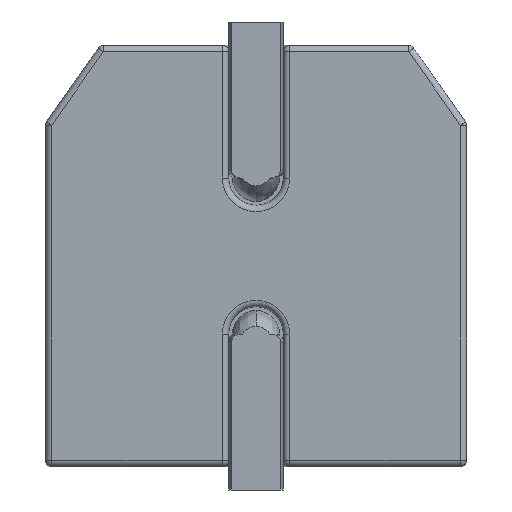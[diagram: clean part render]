
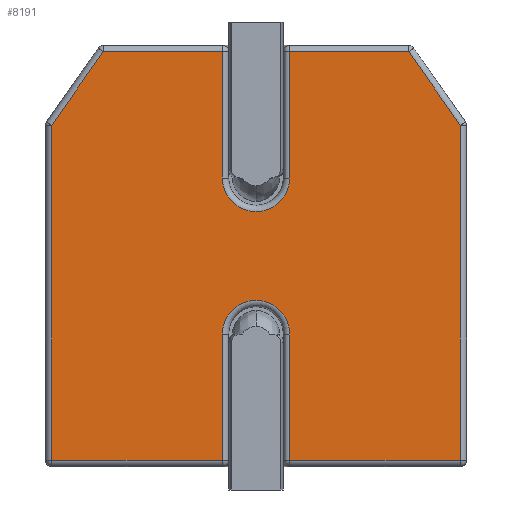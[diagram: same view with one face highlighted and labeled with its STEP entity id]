
A CAD part, left-side view. The second image highlights one B-rep face of the part: STEP entity #8191.
In plain terms, the highlighted planar face has unit normal (-1, 0, 0) as drawn and (0, -1, 0) by its records, which use the part's own axes.
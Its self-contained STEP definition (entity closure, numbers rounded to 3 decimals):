
#5873=DIRECTION('',(0.,0.,1.));
#5874=VECTOR('',#5873,4.295);
#5875=CARTESIAN_POINT('',(-2.62,0.,-2.62));
#5876=LINE('',#5875,#5874);
#5877=DIRECTION('',(-0.573,0.,-0.819));
#5878=VECTOR('',#5877,1.154);
#5879=CARTESIAN_POINT('',(-1.958,0.,2.62));
#5880=LINE('',#5879,#5878);
#5881=DIRECTION('',(-1.,0.,0.));
#5882=VECTOR('',#5881,1.528);
#5883=CARTESIAN_POINT('',(-0.43,0.,2.62));
#5884=LINE('',#5883,#5882);
#5885=DIRECTION('',(0.,0.,1.));
#5886=VECTOR('',#5885,1.62);
#5887=CARTESIAN_POINT('',(-0.43,0.,1.));
#5888=LINE('',#5887,#5886);
#5889=DIRECTION('',(0.,0.,-1.));
#5890=VECTOR('',#5889,1.62);
#5891=CARTESIAN_POINT('',(0.43,0.,2.62));
#5892=LINE('',#5891,#5890);
#5893=DIRECTION('',(-1.,0.,0.));
#5894=VECTOR('',#5893,1.528);
#5895=CARTESIAN_POINT('',(1.958,0.,2.62));
#5896=LINE('',#5895,#5894);
#5897=DIRECTION('',(-0.573,0.,0.819));
#5898=VECTOR('',#5897,1.154);
#5899=CARTESIAN_POINT('',(2.62,0.,1.675));
#5900=LINE('',#5899,#5898);
#5901=DIRECTION('',(0.,0.,1.));
#5902=VECTOR('',#5901,4.295);
#5903=CARTESIAN_POINT('',(2.62,0.,-2.62));
#5904=LINE('',#5903,#5902);
#5905=DIRECTION('',(1.,0.,0.));
#5906=VECTOR('',#5905,2.19);
#5907=CARTESIAN_POINT('',(0.43,0.,-2.62));
#5908=LINE('',#5907,#5906);
#5909=DIRECTION('',(0.,0.,-1.));
#5910=VECTOR('',#5909,1.62);
#5911=CARTESIAN_POINT('',(0.43,0.,-1.));
#5912=LINE('',#5911,#5910);
#5913=DIRECTION('',(0.,0.,1.));
#5914=VECTOR('',#5913,1.62);
#5915=CARTESIAN_POINT('',(-0.43,0.,-2.62));
#5916=LINE('',#5915,#5914);
#5917=DIRECTION('',(1.,0.,0.));
#5918=VECTOR('',#5917,2.19);
#5919=CARTESIAN_POINT('',(-2.62,0.,-2.62));
#5920=LINE('',#5919,#5918);
#5951=CARTESIAN_POINT('',(0.,0.,-1.));
#5952=DIRECTION('',(0.,1.,0.));
#5953=DIRECTION('',(-1.,0.,0.));
#5954=AXIS2_PLACEMENT_3D('',#5951,#5952,#5953);
#7414=CARTESIAN_POINT('',(0.,0.,1.));
#7415=DIRECTION('',(0.,1.,0.));
#7416=DIRECTION('',(1.,0.,0.));
#7417=AXIS2_PLACEMENT_3D('',#7414,#7415,#7416);
#7967=CARTESIAN_POINT('',(0.43,0.,-2.62));
#7968=CARTESIAN_POINT('',(2.62,0.,-2.62));
#7969=VERTEX_POINT('',#7967);
#7970=VERTEX_POINT('',#7968);
#7971=CARTESIAN_POINT('',(-0.43,0.,-2.62));
#7972=CARTESIAN_POINT('',(-0.43,0.,-1.));
#7973=VERTEX_POINT('',#7971);
#7974=VERTEX_POINT('',#7972);
#7981=CARTESIAN_POINT('',(0.43,0.,-1.));
#7982=VERTEX_POINT('',#7981);
#8018=CARTESIAN_POINT('',(-2.62,0.,-2.62));
#8019=VERTEX_POINT('',#8018);
#8020=CARTESIAN_POINT('',(-2.62,0.,1.675));
#8021=VERTEX_POINT('',#8020);
#8116=CARTESIAN_POINT('',(2.62,0.,1.675));
#8117=VERTEX_POINT('',#8116);
#8118=CARTESIAN_POINT('',(1.958,0.,2.62));
#8119=VERTEX_POINT('',#8118);
#8120=CARTESIAN_POINT('',(0.43,0.,2.62));
#8121=VERTEX_POINT('',#8120);
#8122=CARTESIAN_POINT('',(0.43,0.,1.));
#8123=VERTEX_POINT('',#8122);
#8130=CARTESIAN_POINT('',(-0.43,0.,1.));
#8131=CARTESIAN_POINT('',(-0.43,0.,2.62));
#8132=VERTEX_POINT('',#8130);
#8133=VERTEX_POINT('',#8131);
#8134=CARTESIAN_POINT('',(-1.958,0.,2.62));
#8135=VERTEX_POINT('',#8134);
#8156=CARTESIAN_POINT('',(0.,0.,0.));
#8157=DIRECTION('',(0.,1.,0.));
#8158=DIRECTION('',(0.,0.,1.));
#8159=AXIS2_PLACEMENT_3D('',#8156,#8157,#8158);
#8160=PLANE('',#8159);
#8162=ORIENTED_EDGE('',*,*,#8161,.T.);
#8164=ORIENTED_EDGE('',*,*,#8163,.F.);
#8166=ORIENTED_EDGE('',*,*,#8165,.F.);
#8168=ORIENTED_EDGE('',*,*,#8167,.F.);
#8170=ORIENTED_EDGE('',*,*,#8169,.F.);
#8172=ORIENTED_EDGE('',*,*,#8171,.F.);
#8174=ORIENTED_EDGE('',*,*,#8173,.F.);
#8176=ORIENTED_EDGE('',*,*,#8175,.F.);
#8178=ORIENTED_EDGE('',*,*,#8177,.F.);
#8180=ORIENTED_EDGE('',*,*,#8179,.F.);
#8182=ORIENTED_EDGE('',*,*,#8181,.F.);
#8184=ORIENTED_EDGE('',*,*,#8183,.F.);
#8186=ORIENTED_EDGE('',*,*,#8185,.F.);
#8188=ORIENTED_EDGE('',*,*,#8187,.F.);
#8189=EDGE_LOOP('',(#8162,#8164,#8166,#8168,#8170,#8172,#8174,#8176,#8178,#8180,
#8182,#8184,#8186,#8188));
#8190=FACE_OUTER_BOUND('',#8189,.F.);
#8191=ADVANCED_FACE('',(#8190),#8160,.F.);
#5955=CIRCLE('',#5954,0.43);
#7418=CIRCLE('',#7417,0.43);
#8161=EDGE_CURVE('',#8019,#8021,#5876,.T.);
#8163=EDGE_CURVE('',#8135,#8021,#5880,.T.);
#8165=EDGE_CURVE('',#8133,#8135,#5884,.T.);
#8167=EDGE_CURVE('',#8132,#8133,#5888,.T.);
#8169=EDGE_CURVE('',#8123,#8132,#7418,.T.);
#8171=EDGE_CURVE('',#8121,#8123,#5892,.T.);
#8173=EDGE_CURVE('',#8119,#8121,#5896,.T.);
#8175=EDGE_CURVE('',#8117,#8119,#5900,.T.);
#8177=EDGE_CURVE('',#7970,#8117,#5904,.T.);
#8179=EDGE_CURVE('',#7969,#7970,#5908,.T.);
#8181=EDGE_CURVE('',#7982,#7969,#5912,.T.);
#8183=EDGE_CURVE('',#7974,#7982,#5955,.T.);
#8185=EDGE_CURVE('',#7973,#7974,#5916,.T.);
#8187=EDGE_CURVE('',#8019,#7973,#5920,.T.);
